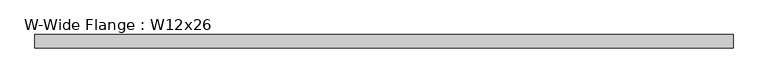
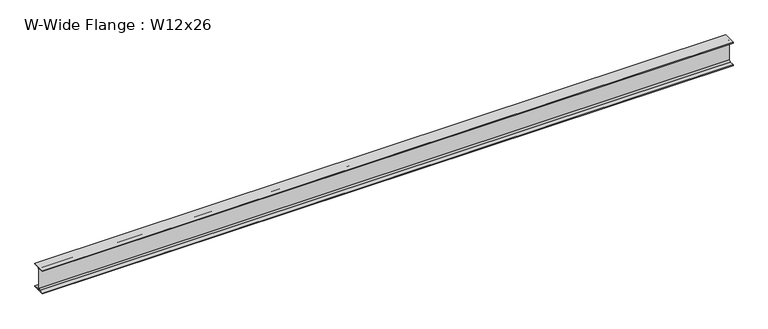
"""IFC4 building model written with IfcOpenShell, lengths in millimetres: beam geometry, W-Wide Flange : W12x26."""

from ifc_helpers import new_model, si_unit, point, frame, frame_2d, origin, place, context, project, spatial, polyline, circle_curve, trimmed, segment, composite_curve, outline, extrude, source, transform, mapped, element, save


def w_wide_flange_w12x26_d2ca2df1(model_context):
    return source(origin(), model_context, "Body", "SweptSolid", [
        extrude(outline(composite_curve([segment(polyline([(82.423, -145.288), (82.423, -154.94), (-82.423, -154.94), (-82.423, -145.288), (-20.2565, -145.288)]), True, "CONTINUOUS"), segment(trimmed(circle_curve(frame_2d((-20.2565, -127.9525)), 17.3355), [point((-20.2565, -145.288))], [point((-2.921, -127.9525))], True, "CARTESIAN"), True, "CONTINUOUS"), segment(polyline([(-2.921, -127.9525), (-2.921, 127.9525)]), True, "CONTINUOUS"), segment(trimmed(circle_curve(frame_2d((-20.2565, 127.9525)), 17.3355), [point((-2.921, 127.9525))], [point((-20.2565, 145.288))], True, "CARTESIAN"), True, "CONTINUOUS"), segment(polyline([(-20.2565, 145.288), (-82.423, 145.288), (-82.423, 154.94), (82.423, 154.94), (82.423, 145.288), (20.2565, 145.288)]), True, "CONTINUOUS"), segment(trimmed(circle_curve(frame_2d((20.2565, 127.9525)), 17.3355), [point((20.2565, 145.288))], [point((2.921, 127.9525))], True, "CARTESIAN"), True, "CONTINUOUS"), segment(polyline([(2.921, 127.9525), (2.921, -127.9525)]), True, "CONTINUOUS"), segment(trimmed(circle_curve(frame_2d((20.2565, -127.9525)), 17.3355), [point((2.921, -127.9525))], [point((20.2565, -145.288))], True, "CARTESIAN"), True, "CONTINUOUS"), segment(polyline([(20.2565, -145.288), (82.423, -145.288)]), True, "CONTINUOUS")], self_intersect=False)), frame((-4358.513, 0.0, 0.0), z_axis=(1.0, 0.0, 0.0), x_axis=(0.0, 1.0, 0.0)), (0.0, 0.0, 1.0), 8717.026),
    ])


if __name__ == "__main__":
    model = new_model("IFC4")
    model_context = context("Model", 3, world=origin())
    ifc_project = project(units=[si_unit("LENGTHUNIT", "METRE", prefix="MILLI")], contexts=[model_context])
    site = spatial("IfcSite", under=ifc_project)
    building = spatial("IfcBuilding", under=site)
    placement = place(None, origin())
    w_wide_flange_w12x26_shape = w_wide_flange_w12x26_d2ca2df1(model_context)
    element("IfcBeam", 1, ObjectType="W-Wide Flange : W12x26", at=placement, inside=building, context=model_context, shape_type="MappedRepresentation", body=[
        mapped(w_wide_flange_w12x26_shape, transform((0.0, 0.0, 0.0), x_axis=(1.0, 0.0, 0.0), y_axis=(0.0, 1.0, 0.0), z_axis=(0.0, 0.0, 1.0))),
    ])
    save(model, "model.ifc")
